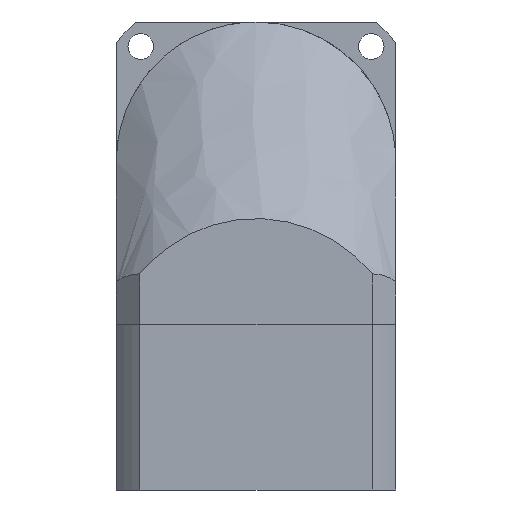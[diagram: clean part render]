
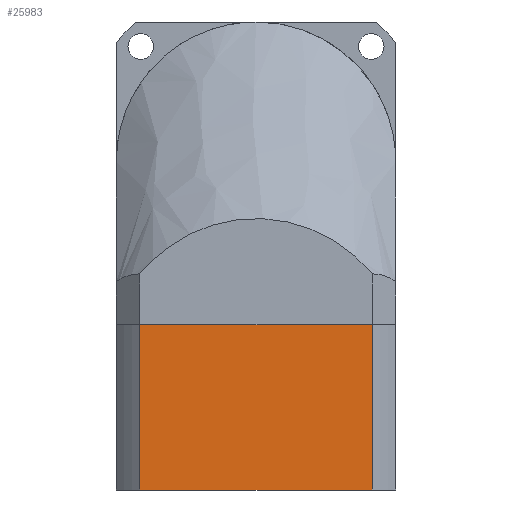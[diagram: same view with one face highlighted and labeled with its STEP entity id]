
A CAD part, front view. The second image highlights one B-rep face of the part: STEP entity #25983.
In plain terms, the highlighted planar face has unit normal (0, -1, 0).
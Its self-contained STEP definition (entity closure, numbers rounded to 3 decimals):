
#7233 = EDGE_CURVE ( 'NONE', #42380, #9099, #26088, .T. ) ;
#7671 = DIRECTION ( 'NONE',  ( 1., 0., 0. ) ) ;
#7718 = CARTESIAN_POINT ( 'NONE',  ( 0., -30., -35.5 ) ) ;
#8147 = LINE ( 'NONE', #11622, #26188 ) ;
#9099 = VERTEX_POINT ( 'NONE', #11839 ) ;
#9867 = VERTEX_POINT ( 'NONE', #22793 ) ;
#11243 = EDGE_CURVE ( 'NONE', #9099, #9867, #39680, .T. ) ;
#11622 = CARTESIAN_POINT ( 'NONE',  ( 0., -30., 0. ) ) ;
#11674 = ORIENTED_EDGE ( 'NONE', *, *, #11243, .T. ) ;
#11839 = CARTESIAN_POINT ( 'NONE',  ( 24.92, -30., -35.5 ) ) ;
#12558 = LINE ( 'NONE', #28490, #29455 ) ;
#13021 = PLANE ( 'NONE',  #18736 ) ;
#13051 = VECTOR ( 'NONE', #41844, 1000. ) ;
#14888 = DIRECTION ( 'NONE',  ( 0., 0., -1. ) ) ;
#16453 = CARTESIAN_POINT ( 'NONE',  ( -30., -30., -35.5 ) ) ;
#18191 = VECTOR ( 'NONE', #7671, 1000. ) ;
#18736 = AXIS2_PLACEMENT_3D ( 'NONE', #16453, #39730, #19840 ) ;
#18822 = ORIENTED_EDGE ( 'NONE', *, *, #19663, .T. ) ;
#19663 = EDGE_CURVE ( 'NONE', #25135, #42380, #12558, .T. ) ;
#19840 = DIRECTION ( 'NONE',  ( 0., 0., -1. ) ) ;
#21915 = ORIENTED_EDGE ( 'NONE', *, *, #23255, .T. ) ;
#22019 = CARTESIAN_POINT ( 'NONE',  ( 24.92, -30., -35.5 ) ) ;
#22793 = CARTESIAN_POINT ( 'NONE',  ( 24.92, -30., 0. ) ) ;
#23255 = EDGE_CURVE ( 'NONE', #9867, #25135, #8147, .T. ) ;
#25135 = VERTEX_POINT ( 'NONE', #35757 ) ;
#25983 = ADVANCED_FACE ( 'NONE', ( #32826 ), #13021, .T. ) ;
#26088 = LINE ( 'NONE', #7718, #18191 ) ;
#26188 = VECTOR ( 'NONE', #35113, 1000. ) ;
#28490 = CARTESIAN_POINT ( 'NONE',  ( -24.92, -30., -35.5 ) ) ;
#28965 = EDGE_LOOP ( 'NONE', ( #18822, #34310, #11674, #21915 ) ) ;
#29455 = VECTOR ( 'NONE', #14888, 1000. ) ;
#32826 = FACE_OUTER_BOUND ( 'NONE', #28965, .T. ) ;
#34310 = ORIENTED_EDGE ( 'NONE', *, *, #7233, .T. ) ;
#35113 = DIRECTION ( 'NONE',  ( -1., 0., 0. ) ) ;
#35757 = CARTESIAN_POINT ( 'NONE',  ( -24.92, -30., 0. ) ) ;
#39658 = CARTESIAN_POINT ( 'NONE',  ( -24.92, -30., -35.5 ) ) ;
#39680 = LINE ( 'NONE', #22019, #13051 ) ;
#39730 = DIRECTION ( 'NONE',  ( 0., -1., 0. ) ) ;
#41844 = DIRECTION ( 'NONE',  ( 0., 0., 1. ) ) ;
#42380 = VERTEX_POINT ( 'NONE', #39658 ) ;
